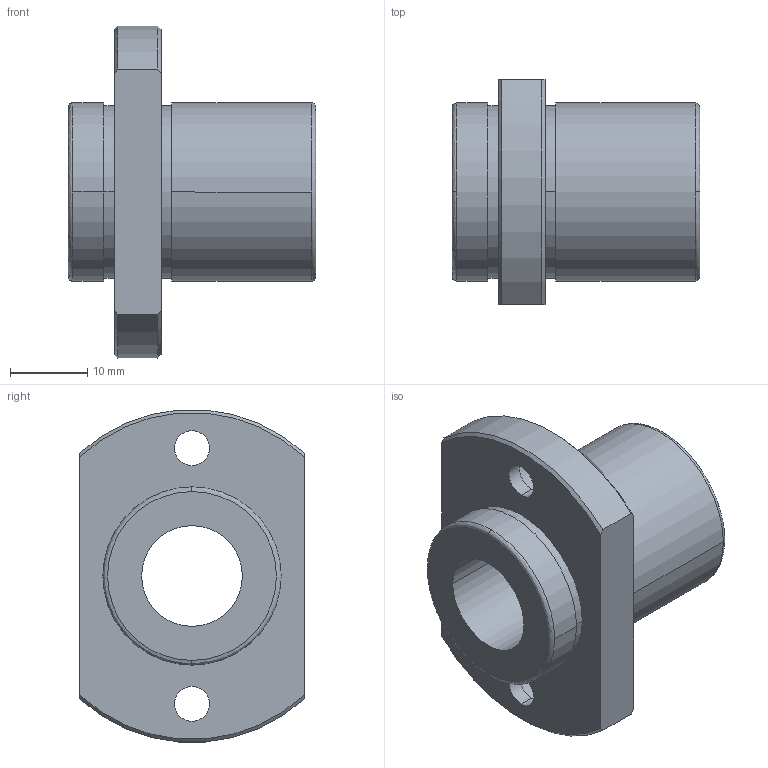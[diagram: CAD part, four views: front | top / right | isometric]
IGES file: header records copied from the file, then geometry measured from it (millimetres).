
Start section: 3D InterOp IGES (Version 21 0 1), Spatial Corp. Copyright (c) 1999-2007.
Global section: file name: NFIO-13VUU.igs; native system: Spatial Corp.; preprocessor: 3D InterOp GENERIC/IGES 3.0; author: Noname; organization: Noname; date: 20220308.102138; units: millimetre
Bounding box: 32 x 29 x 42.85 mm (x, y, z)
Surface area: 6180.9 mm2 (no closed solid volume)
Topology: 0 solids, 0 shells, 38 faces, 180 edges, 180 vertices
Faces by surface type: revolution 28, extrusion 10
